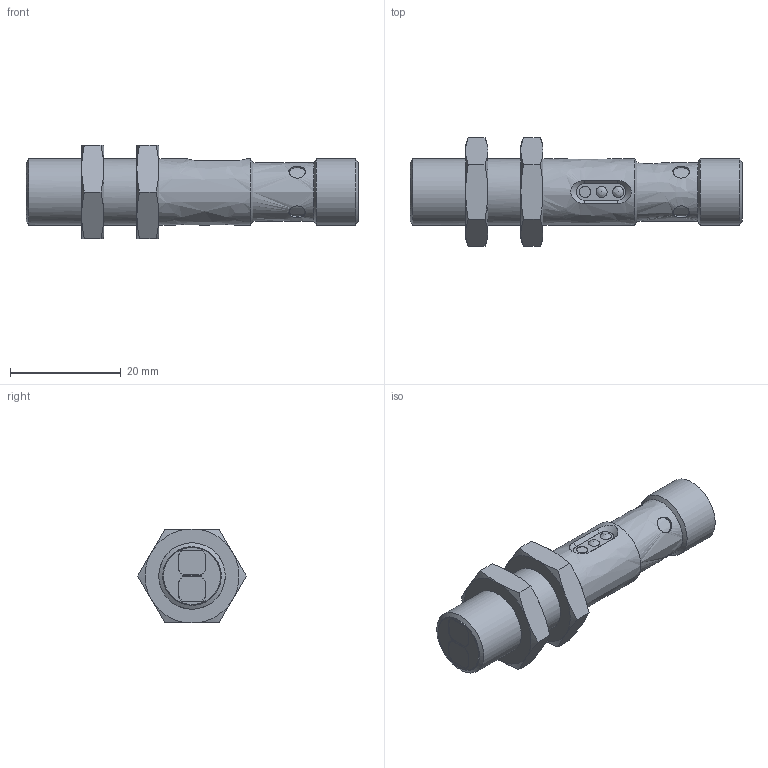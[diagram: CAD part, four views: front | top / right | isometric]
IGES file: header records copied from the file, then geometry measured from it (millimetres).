
Global section: file name: 153-00250_FR 12 R-..L4 Stecker; native system: Autodesk Inventor 2018; preprocessor: unknown; date: 20200428.085813; units: millimetre
Bounding box: 60.05 x 19.63 x 17 mm (x, y, z)
Volume: 7050.7 mm3; surface area: 3530.4 mm2
Topology: 1 solids, 1 shells, 144 faces, 378 edges, 249 vertices
Faces by surface type: bspline 144
